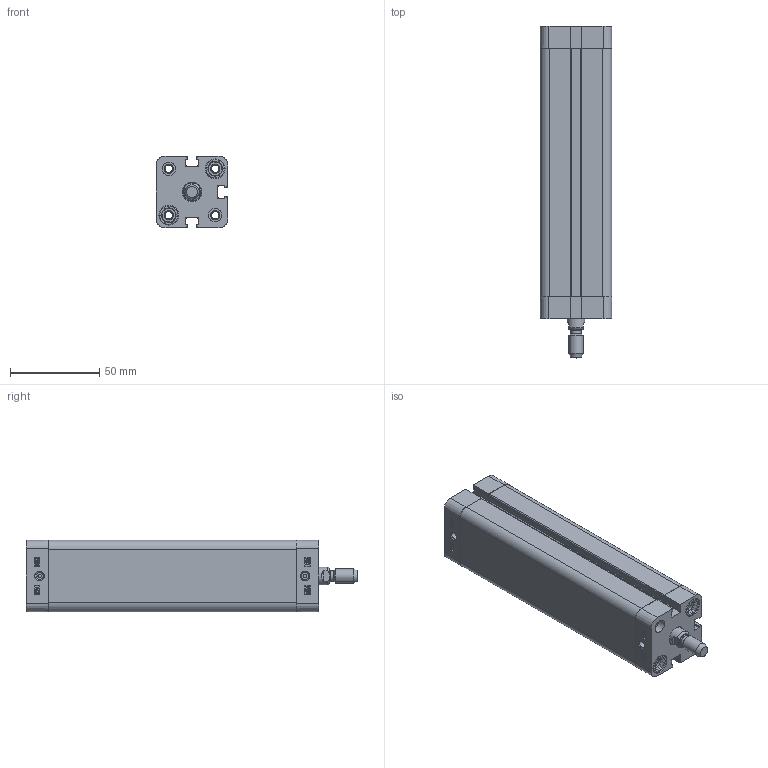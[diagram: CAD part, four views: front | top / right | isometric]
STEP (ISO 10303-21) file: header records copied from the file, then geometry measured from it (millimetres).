
FILE_DESCRIPTION((''),'2;1');
FILE_NAME('T:\Archivio Inventor\- CATALOGHI 2012\SERIE P - NUOVA\PDM\PDM025\PDM025.---.GS.M\PDM025.125.GS.M.stp','2013-01-31T08:09:13',('Administrator'),(''),'Autodesk Inventor 2012','Autodesk Inventor 2012','');
FILE_SCHEMA(('CONFIG_CONTROL_DESIGN'));
Length unit declared in the file: millimetre
Products named in the file (1): PDM025.125.GS.M
Bounding box: 40.3 x 186 x 40.3 mm (x, y, z)
Volume: 130031.8 mm3; surface area: 67535.5 mm2
Topology: 1 solids, 3 shells, 596 faces, 1552 edges, 1017 vertices
Faces by surface type: plane 312, cylinder 130, bspline 92, cone 50, torus 12
Full cylindrical faces by diameter (mm): 2 x2, 4.134 x10, 5.8 x1, 7.5 x4, 7.55 x2, 8 x9, 9 x1, 10 x1, 10.5 x1, 10.8 x4, 11.1 x4, 25 x1, 27.3 x1, 27.5 x1
Entity records: 18782 total; most frequent: CARTESIAN_POINT 4306, ORIENTED_EDGE 2888, DIRECTION 2606, EDGE_CURVE 1444, VERTEX_POINT 1002, VECTOR 898, LINE 898, AXIS2_PLACEMENT_3D 854
